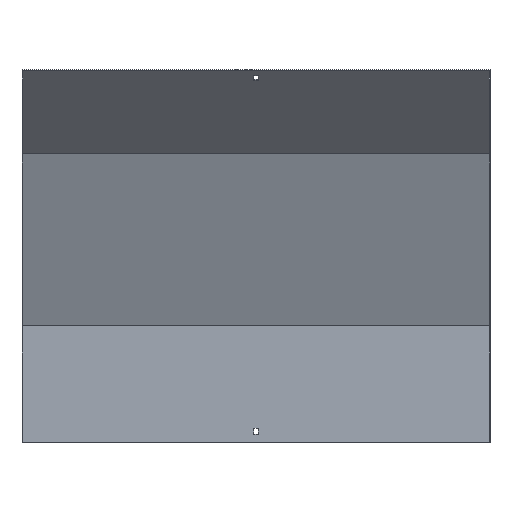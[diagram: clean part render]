
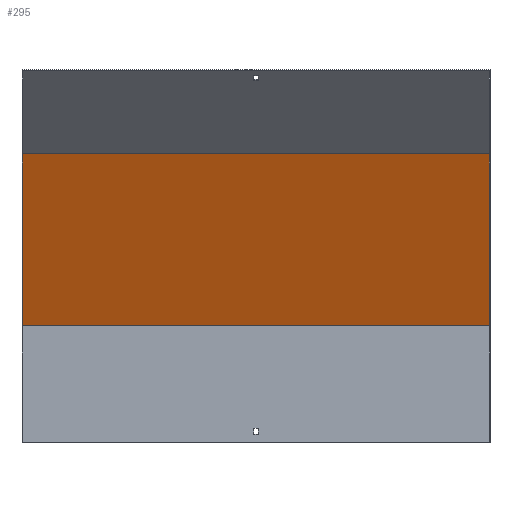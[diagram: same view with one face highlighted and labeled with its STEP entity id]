
A CAD part, front view. The second image highlights one B-rep face of the part: STEP entity #295.
In plain terms, the highlighted planar face has unit normal (0, -0.924, -0.383).
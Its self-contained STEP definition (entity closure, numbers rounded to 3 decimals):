
#2 = EDGE_CURVE ( 'NONE', #236, #142, #497, .T. ) ;
#47 = VERTEX_POINT ( 'NONE', #426 ) ;
#77 = LINE ( 'NONE', #327, #340 ) ;
#91 = FACE_OUTER_BOUND ( 'NONE', #826, .T. ) ;
#103 = VECTOR ( 'NONE', #439, 1000. ) ;
#142 = VERTEX_POINT ( 'NONE', #251 ) ;
#209 = EDGE_CURVE ( 'NONE', #236, #47, #709, .T. ) ;
#236 = VERTEX_POINT ( 'NONE', #716 ) ;
#251 = CARTESIAN_POINT ( 'NONE',  ( 350., -88.789, 434.699 ) ) ;
#285 = DIRECTION ( 'NONE',  ( 0., 0.383, -0.924 ) ) ;
#295 = ADVANCED_FACE ( 'NONE', ( #91 ), #673, .T. ) ;
#322 = DIRECTION ( 'NONE',  ( -1., 0., 0. ) ) ;
#327 = CARTESIAN_POINT ( 'NONE',  ( 351.5, -88.789, 434.699 ) ) ;
#333 = DIRECTION ( 'NONE',  ( 0., -0.924, -0.383 ) ) ;
#340 = VECTOR ( 'NONE', #322, 1000. ) ;
#422 = EDGE_CURVE ( 'NONE', #47, #434, #770, .T. ) ;
#426 = CARTESIAN_POINT ( 'NONE',  ( -350., 18.5, 175.68 ) ) ;
#434 = VERTEX_POINT ( 'NONE', #635 ) ;
#439 = DIRECTION ( 'NONE',  ( 0., -0.383, 0.924 ) ) ;
#442 = ORIENTED_EDGE ( 'NONE', *, *, #702, .T. ) ;
#456 = DIRECTION ( 'NONE',  ( -1., 0., 0. ) ) ;
#459 = VECTOR ( 'NONE', #633, 1000. ) ;
#484 = CARTESIAN_POINT ( 'NONE',  ( -350., 77.903, 32.268 ) ) ;
#488 = CARTESIAN_POINT ( 'NONE',  ( 350., 77.903, 32.268 ) ) ;
#497 = LINE ( 'NONE', #488, #459 ) ;
#576 = CARTESIAN_POINT ( 'NONE',  ( 351.5, 18.5, 175.68 ) ) ;
#622 = ORIENTED_EDGE ( 'NONE', *, *, #209, .F. ) ;
#630 = ORIENTED_EDGE ( 'NONE', *, *, #2, .T. ) ;
#633 = DIRECTION ( 'NONE',  ( 0., -0.383, 0.924 ) ) ;
#635 = CARTESIAN_POINT ( 'NONE',  ( -350., -88.789, 434.699 ) ) ;
#673 = PLANE ( 'NONE',  #685 ) ;
#685 = AXIS2_PLACEMENT_3D ( 'NONE', #741, #333, #285 ) ;
#702 = EDGE_CURVE ( 'NONE', #142, #434, #77, .T. ) ;
#709 = LINE ( 'NONE', #576, #714 ) ;
#714 = VECTOR ( 'NONE', #456, 1000. ) ;
#716 = CARTESIAN_POINT ( 'NONE',  ( 350., 18.5, 175.68 ) ) ;
#741 = CARTESIAN_POINT ( 'NONE',  ( 351.5, 17.092, 179.08 ) ) ;
#742 = ORIENTED_EDGE ( 'NONE', *, *, #422, .F. ) ;
#770 = LINE ( 'NONE', #484, #103 ) ;
#826 = EDGE_LOOP ( 'NONE', ( #742, #622, #630, #442 ) ) ;
